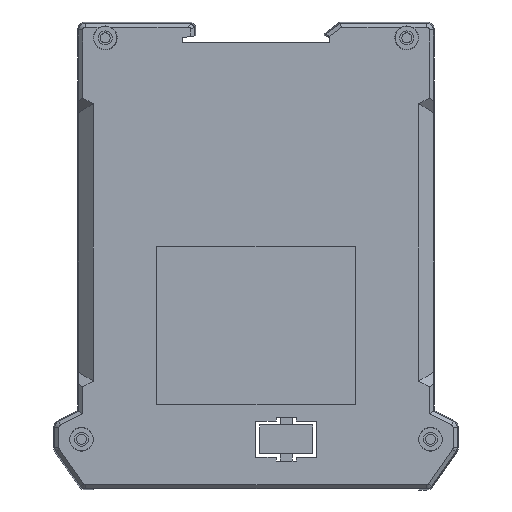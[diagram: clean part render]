
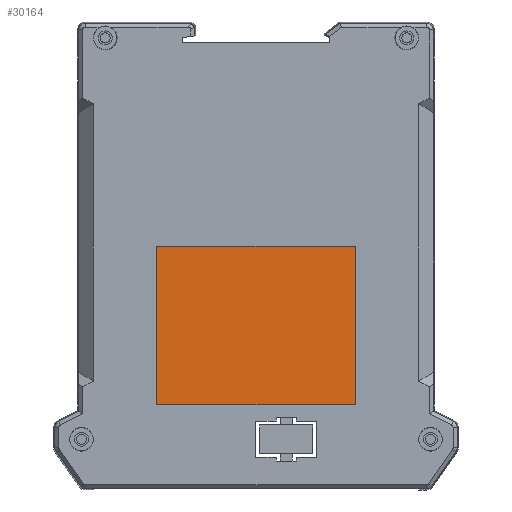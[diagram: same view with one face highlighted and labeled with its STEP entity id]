
A CAD part, front view. The second image highlights one B-rep face of the part: STEP entity #30164.
In plain terms, the highlighted planar face has unit normal (0, -1, 0).
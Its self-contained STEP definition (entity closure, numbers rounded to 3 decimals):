
#245 = EDGE_CURVE ( 'NONE', #925, #22288, #28437, .T. ) ;
#925 = VERTEX_POINT ( 'NONE', #6484 ) ;
#1037 = DIRECTION ( 'NONE',  ( 0., 0., -1. ) ) ;
#1125 = DIRECTION ( 'NONE',  ( 0., 0., 1. ) ) ;
#1430 = AXIS2_PLACEMENT_3D ( 'NONE', #1818, #11382, #27861 ) ;
#1723 = CARTESIAN_POINT ( 'NONE',  ( -25., -16.75, -35. ) ) ;
#1818 = CARTESIAN_POINT ( 'NONE',  ( 0., -16.75, 0. ) ) ;
#2021 = ORIENTED_EDGE ( 'NONE', *, *, #18439, .F. ) ;
#2438 = VERTEX_POINT ( 'NONE', #10246 ) ;
#3809 = CARTESIAN_POINT ( 'NONE',  ( 25., -16.75, -35. ) ) ;
#5902 = CARTESIAN_POINT ( 'NONE',  ( 25., -16.75, -35. ) ) ;
#6484 = CARTESIAN_POINT ( 'NONE',  ( 25., -16.75, 5. ) ) ;
#6622 = CARTESIAN_POINT ( 'NONE',  ( -25., -16.75, 5. ) ) ;
#8494 = EDGE_CURVE ( 'NONE', #17930, #925, #12125, .T. ) ;
#8986 = PLANE ( 'NONE',  #1430 ) ;
#10246 = CARTESIAN_POINT ( 'NONE',  ( -25., -16.75, -35. ) ) ;
#10506 = CARTESIAN_POINT ( 'NONE',  ( -25., -16.75, 5. ) ) ;
#10570 = CARTESIAN_POINT ( 'NONE',  ( -25., -16.75, -35. ) ) ;
#10623 = VECTOR ( 'NONE', #22369, 1000. ) ;
#11382 = DIRECTION ( 'NONE',  ( 0., 1., 0. ) ) ;
#12125 = LINE ( 'NONE', #10506, #10623 ) ;
#15678 = EDGE_LOOP ( 'NONE', ( #27856, #2021, #21855, #21802 ) ) ;
#15846 = LINE ( 'NONE', #10570, #21387 ) ;
#17930 = VERTEX_POINT ( 'NONE', #6622 ) ;
#18439 = EDGE_CURVE ( 'NONE', #22288, #2438, #20051, .T. ) ;
#19334 = VECTOR ( 'NONE', #30001, 1000. ) ;
#20051 = LINE ( 'NONE', #1723, #19334 ) ;
#21387 = VECTOR ( 'NONE', #1125, 1000. ) ;
#21802 = ORIENTED_EDGE ( 'NONE', *, *, #8494, .F. ) ;
#21855 = ORIENTED_EDGE ( 'NONE', *, *, #245, .F. ) ;
#22189 = VECTOR ( 'NONE', #1037, 1000. ) ;
#22197 = EDGE_CURVE ( 'NONE', #2438, #17930, #15846, .T. ) ;
#22288 = VERTEX_POINT ( 'NONE', #3809 ) ;
#22369 = DIRECTION ( 'NONE',  ( 1., 0., 0. ) ) ;
#26734 = FACE_OUTER_BOUND ( 'NONE', #15678, .T. ) ;
#27856 = ORIENTED_EDGE ( 'NONE', *, *, #22197, .F. ) ;
#27861 = DIRECTION ( 'NONE',  ( 0., 0., 1. ) ) ;
#28437 = LINE ( 'NONE', #5902, #22189 ) ;
#30001 = DIRECTION ( 'NONE',  ( -1., 0., 0. ) ) ;
#30164 = ADVANCED_FACE ( 'NONE', ( #26734 ), #8986, .F. ) ;
